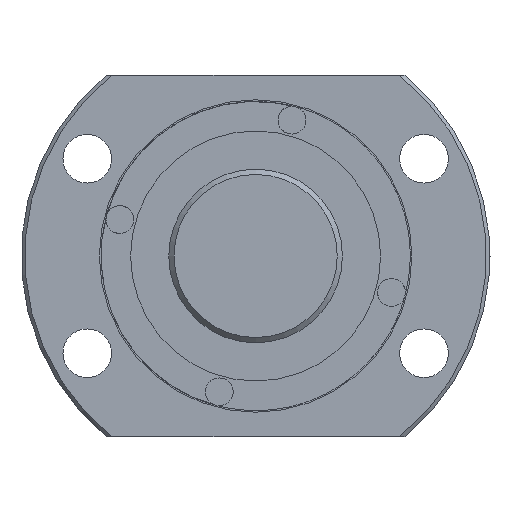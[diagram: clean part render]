
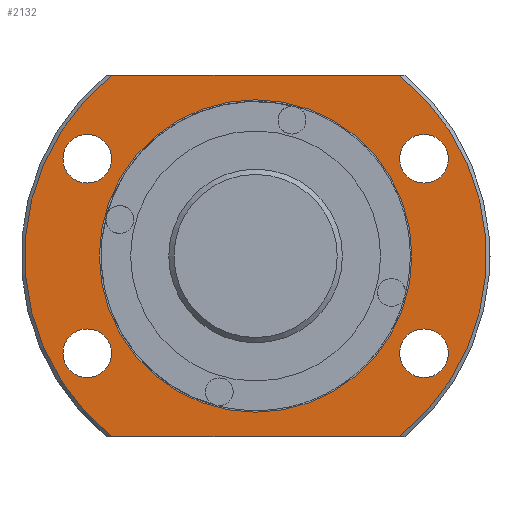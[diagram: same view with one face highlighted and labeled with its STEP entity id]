
A CAD part, left-side view. The second image highlights one B-rep face of the part: STEP entity #2132.
In plain terms, the highlighted planar face has unit normal (-1, 0, 0).
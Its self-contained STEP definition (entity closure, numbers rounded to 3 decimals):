
#81=LINE('',#3615,#201);
#82=LINE('',#3616,#202);
#201=VECTOR('',#2739,1000.);
#202=VECTOR('',#2740,1000.);
#481=ORIENTED_EDGE('',*,*,#1032,.T.);
#482=ORIENTED_EDGE('',*,*,#1033,.F.);
#483=ORIENTED_EDGE('',*,*,#1011,.F.);
#484=ORIENTED_EDGE('',*,*,#1034,.F.);
#485=ORIENTED_EDGE('',*,*,#1030,.F.);
#486=ORIENTED_EDGE('',*,*,#1035,.T.);
#487=ORIENTED_EDGE('',*,*,#1036,.T.);
#488=ORIENTED_EDGE('',*,*,#1037,.T.);
#489=ORIENTED_EDGE('',*,*,#1038,.T.);
#1011=EDGE_CURVE('',#1290,#1289,#1448,.T.);
#1030=EDGE_CURVE('',#1305,#1306,#1462,.T.);
#1032=EDGE_CURVE('',#1307,#1307,#1463,.T.);
#1033=EDGE_CURVE('',#1289,#1305,#81,.T.);
#1034=EDGE_CURVE('',#1306,#1290,#82,.T.);
#1035=EDGE_CURVE('',#1308,#1308,#1464,.T.);
#1036=EDGE_CURVE('',#1309,#1309,#1465,.T.);
#1037=EDGE_CURVE('',#1310,#1310,#1466,.T.);
#1038=EDGE_CURVE('',#1311,#1311,#1467,.T.);
#1289=VERTEX_POINT('',#3548);
#1290=VERTEX_POINT('',#3553);
#1305=VERTEX_POINT('',#3605);
#1306=VERTEX_POINT('',#3607);
#1307=VERTEX_POINT('',#3614);
#1308=VERTEX_POINT('',#3618);
#1309=VERTEX_POINT('',#3620);
#1310=VERTEX_POINT('',#3622);
#1311=VERTEX_POINT('',#3624);
#1448=CIRCLE('',#2330,66.5);
#1462=CIRCLE('',#2353,66.5);
#1463=CIRCLE('',#2355,45.);
#1464=CIRCLE('',#2356,7.);
#1465=CIRCLE('',#2357,7.);
#1466=CIRCLE('',#2358,7.);
#1467=CIRCLE('',#2359,7.);
#1601=EDGE_LOOP('',(#481));
#1602=EDGE_LOOP('',(#482,#483,#484,#485));
#1603=EDGE_LOOP('',(#486));
#1604=EDGE_LOOP('',(#487));
#1605=EDGE_LOOP('',(#488));
#1606=EDGE_LOOP('',(#489));
#1827=FACE_BOUND('',#1601,.T.);
#1828=FACE_BOUND('',#1602,.T.);
#1829=FACE_BOUND('',#1603,.T.);
#1830=FACE_BOUND('',#1604,.T.);
#1831=FACE_BOUND('',#1605,.T.);
#1832=FACE_BOUND('',#1606,.T.);
#2019=PLANE('',#2354);
#2132=ADVANCED_FACE('',(#1827,#1828,#1829,#1830,#1831,#1832),#2019,.T.);
#2330=AXIS2_PLACEMENT_3D('',#3554,#2685,#2686);
#2353=AXIS2_PLACEMENT_3D('',#3606,#2733,#2734);
#2354=AXIS2_PLACEMENT_3D('',#3612,#2735,#2736);
#2355=AXIS2_PLACEMENT_3D('',#3613,#2737,#2738);
#2356=AXIS2_PLACEMENT_3D('',#3617,#2741,#2742);
#2357=AXIS2_PLACEMENT_3D('',#3619,#2743,#2744);
#2358=AXIS2_PLACEMENT_3D('',#3621,#2745,#2746);
#2359=AXIS2_PLACEMENT_3D('',#3623,#2747,#2748);
#2685=DIRECTION('',(1.,0.,0.));
#2686=DIRECTION('',(0.,0.,-1.));
#2733=DIRECTION('',(1.,0.,0.));
#2734=DIRECTION('',(0.,0.,-1.));
#2735=DIRECTION('',(-1.,0.,0.));
#2736=DIRECTION('',(0.,0.,1.));
#2737=DIRECTION('',(1.,0.,0.));
#2738=DIRECTION('',(0.,0.,-1.));
#2739=DIRECTION('',(0.,1.,0.));
#2740=DIRECTION('',(0.,-1.,0.));
#2741=DIRECTION('',(1.,0.,0.));
#2742=DIRECTION('',(0.,0.,-1.));
#2743=DIRECTION('',(1.,0.,0.));
#2744=DIRECTION('',(0.,0.,-1.));
#2745=DIRECTION('',(1.,0.,0.));
#2746=DIRECTION('',(0.,0.,-1.));
#2747=DIRECTION('',(1.,0.,0.));
#2748=DIRECTION('',(0.,0.,-1.));
#3548=CARTESIAN_POINT('',(14.,-41.452,-52.));
#3553=CARTESIAN_POINT('',(14.,-41.452,52.));
#3554=CARTESIAN_POINT('',(14.,0.,0.));
#3605=CARTESIAN_POINT('',(14.,41.452,-52.));
#3606=CARTESIAN_POINT('',(14.,0.,0.));
#3607=CARTESIAN_POINT('',(14.,41.452,52.));
#3612=CARTESIAN_POINT('',(14.,66.5,0.));
#3613=CARTESIAN_POINT('',(14.,0.,0.));
#3614=CARTESIAN_POINT('',(14.,0.,-45.));
#3615=CARTESIAN_POINT('',(14.,66.5,-52.));
#3616=CARTESIAN_POINT('',(14.,66.5,52.));
#3617=CARTESIAN_POINT('',(14.,48.497,-28.));
#3618=CARTESIAN_POINT('',(14.,48.497,-35.));
#3619=CARTESIAN_POINT('',(14.,-48.497,28.));
#3620=CARTESIAN_POINT('',(14.,-48.497,21.));
#3621=CARTESIAN_POINT('',(14.,-48.497,-28.));
#3622=CARTESIAN_POINT('',(14.,-48.497,-35.));
#3623=CARTESIAN_POINT('',(14.,48.497,28.));
#3624=CARTESIAN_POINT('',(14.,48.497,21.));
